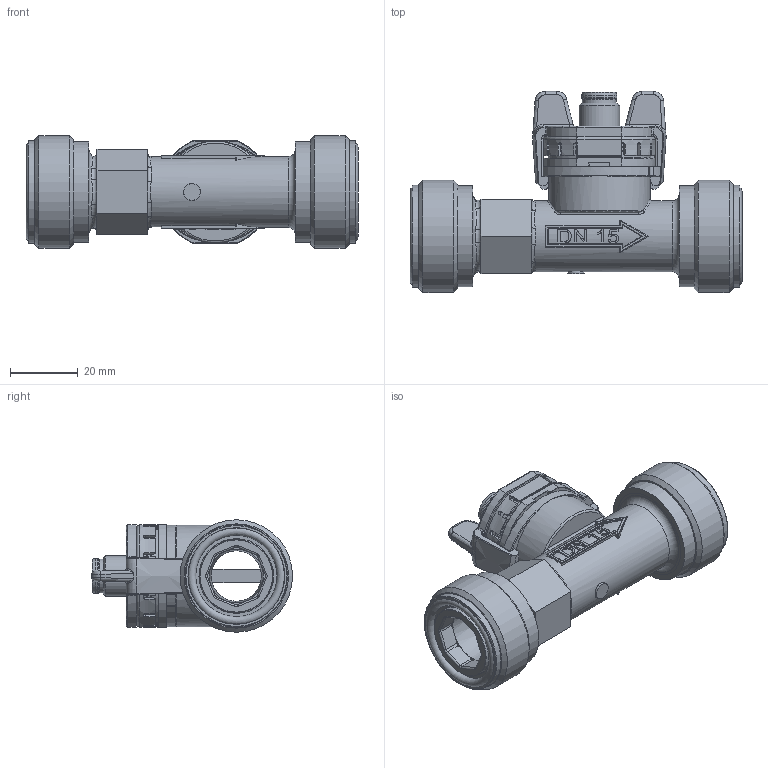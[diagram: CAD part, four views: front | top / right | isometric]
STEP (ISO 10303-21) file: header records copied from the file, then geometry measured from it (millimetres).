
FILE_DESCRIPTION(/* description */ (''),/* implementation_level */ '2;1');
FILE_NAME(/* name */ '2x0_x15x4xG.stp',/* time_stamp */ '2015-07-15T08:00:18+02:00',/* author */ (''),/* organization */ (''),/* preprocessor_version */ 'ST-DEVELOPER v15',/* originating_system */ 'SIEMENS PLM Software NX 9.0',/* authorisation */ '');
FILE_SCHEMA (('AUTOMOTIVE_DESIGN { 1 0 10303 214 3 1 1 1 }'));
Length unit declared in the file: millimetre
Products named in the file (1): Z0021B60D10Fii61
Bounding box: 98.2 x 59.47 x 33.25 mm (x, y, z)
Volume: 52717 mm3; surface area: 30697.2 mm2
Topology: 9 solids, 13 shells, 1145 faces, 2948 edges, 1837 vertices
Faces by surface type: plane 419, cylinder 294, torus 120, extrusion 108, cone 95, bspline 90, sphere 18, revolution 1
Full cylindrical faces by diameter (mm): 1 x3, 1.044 x2, 5 x1, 5.76 x2, 7.98 x4, 8.15 x2, 8.98 x1, 9.25 x1, 10 x1, 10.4 x1, 12 x1, 15 x1, 15.17 x1, 15.4 x1, 17.4 x2, 21 x1, 21.6 x2, 22.5 x2, 24.117 x2, 26.441 x2, 28.4 x2, 29.9 x2, 30 x1, 30.25 x2, 33.249 x2
Entity records: 46499 total; most frequent: CARTESIAN_POINT 15768, ORIENTED_EDGE 5520, DIRECTION 5044, EDGE_CURVE 2760, AXIS2_PLACEMENT_3D 1984, VERTEX_POINT 1792, EDGE_LOOP 1322, ADVANCED_FACE 1145
